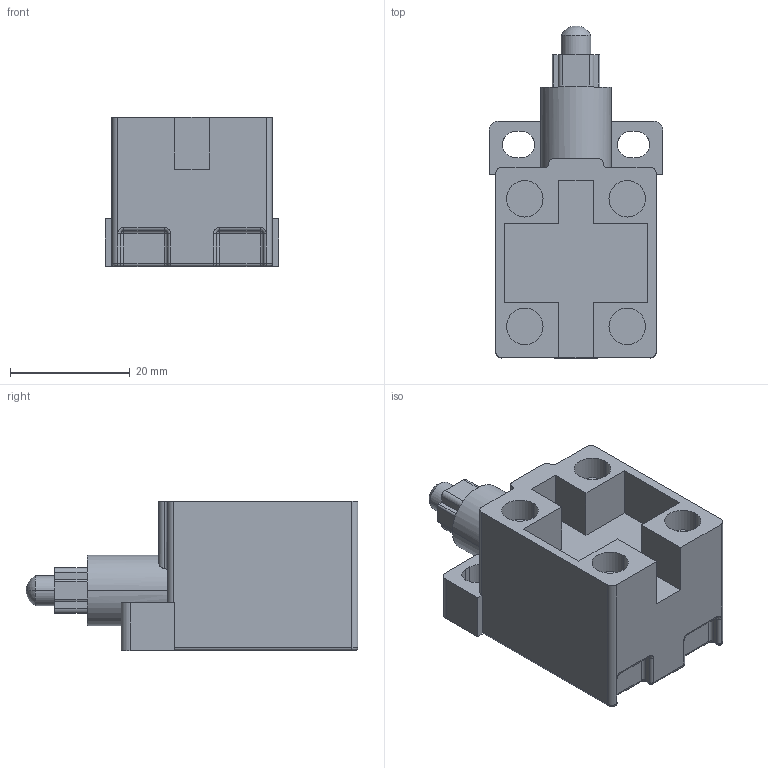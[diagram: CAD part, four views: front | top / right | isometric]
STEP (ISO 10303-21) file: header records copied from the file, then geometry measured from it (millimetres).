
FILE_DESCRIPTION (( 'STEP AP214' ), '1' );
FILE_NAME ('ZF_STEP_VF_Bx0x_A09.STEP', '2018-01-26T07:01:22', ( 'Pizzato Elettrica' ), ( 'Microsoft' ), 'SwSTEP 2.0', 'SolidWorks 2014', '' );
FILE_SCHEMA (( 'AUTOMOTIVE_DESIGN' ));
Length unit declared in the file: millimetre
Products named in the file (3): VF_Bx0x_pulsante; VF_Bx0x_fissa; ZF_STEP_VF_Bx0x_A09
Assembly tree (2 placements, depth 2):
  ZF_STEP_VF_Bx0x_A09
    VF_Bx0x_fissa
    VF_Bx0x_pulsante
Bounding box: 29 x 55.45 x 24.9 mm (x, y, z)
Volume: 19786.4 mm3; surface area: 7476 mm2
Topology: 2 solids, 2 shells, 191 faces, 484 edges, 297 vertices
Faces by surface type: cylinder 82, plane 79, torus 20, sphere 10
Entity records: 5820 total; most frequent: DIRECTION 1058, CARTESIAN_POINT 1003, ORIENTED_EDGE 952, EDGE_CURVE 476, AXIS2_PLACEMENT_3D 390, VERTEX_POINT 297, VECTOR 278, LINE 278
